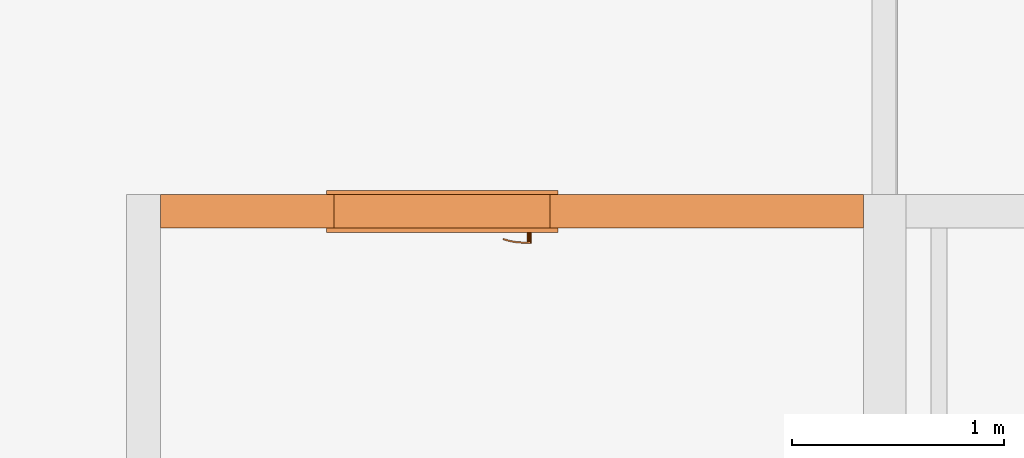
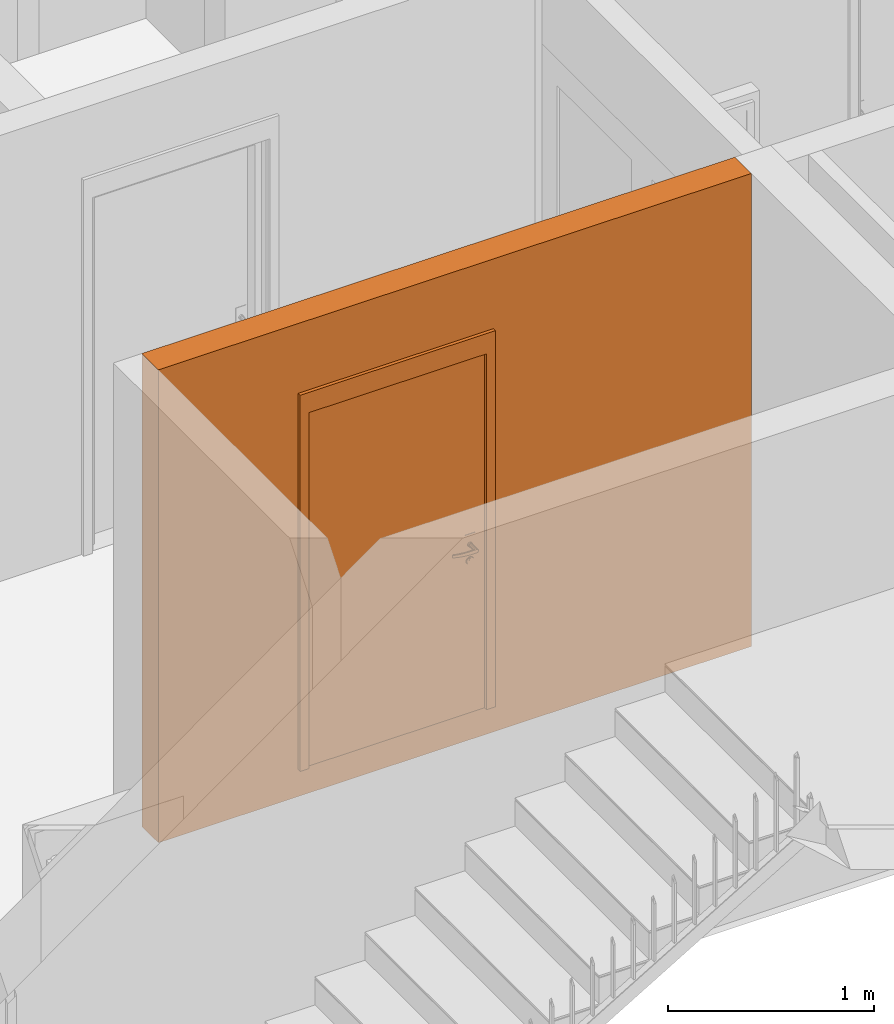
# One storey, part 29 of 67: 2 proxies, 1 opening.
"""IFC2X3 building model written with IfcOpenShell, lengths in millimetres."""

from ifc_helpers import new_model, entity, si_unit, converted_unit, derived_unit, money_unit, direction, frame, origin_with_axes, origin_2d_with_axis, place, context, subcontext, project, spatial, rectangle, extrude, open_shell, faceted_brep, surface_model, source, transform, mapped, material, type_object, element, fill, save


model = new_model("IFC2X3")

# Units and contexts
model_context = context("Model", 3, precision=0.01, world=origin_with_axes(), true_north=direction((0.34421633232, 0.938890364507)))
body_context = subcontext(model_context, "Body", "Model", "MODEL_VIEW")
ifc_project = project(units=[si_unit("LENGTHUNIT", "METRE", prefix="MILLI"), si_unit("AREAUNIT", "SQUARE_METRE"), si_unit("VOLUMEUNIT", "CUBIC_METRE"), converted_unit("PLANEANGLEUNIT", "DEGREE", entity("IfcPlaneAngleMeasure", 0.0174532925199), si_unit("PLANEANGLEUNIT", "RADIAN"), dimensions=[0, 0, 0, 0, 0, 0, 0]), si_unit("SOLIDANGLEUNIT", "STERADIAN"), money_unit("USD"), converted_unit("TIMEUNIT", "Year", entity("IfcTimeMeasure", 31556926.0), si_unit("TIMEUNIT", "SECOND"), dimensions=[0, 0, 1, 0, 0, 0, 0]), si_unit("MASSUNIT", "GRAM", prefix="KILO"), si_unit("THERMODYNAMICTEMPERATUREUNIT", "DEGREE_CELSIUS"), si_unit("LUMINOUSINTENSITYUNIT", "LUMEN"), si_unit("ENERGYUNIT", "JOULE", prefix="MEGA"), derived_unit("THERMALCONDUCTANCEUNIT", [(si_unit("POWERUNIT", "WATT"), 1), (si_unit("LENGTHUNIT", "METRE"), -1), (si_unit("THERMODYNAMICTEMPERATUREUNIT", "KELVIN"), -1)]), derived_unit("SPECIFICHEATCAPACITYUNIT", [(si_unit("ENERGYUNIT", "JOULE"), 1), (si_unit("MASSUNIT", "GRAM", prefix="KILO"), -1), (si_unit("THERMODYNAMICTEMPERATUREUNIT", "KELVIN"), -1)]), derived_unit("MASSDENSITYUNIT", [(si_unit("MASSUNIT", "GRAM", prefix="KILO"), 1), (si_unit("VOLUMEUNIT", "CUBIC_METRE"), -1)])], contexts=[model_context])

# Site, building, storey
site_placement = place(None, origin_with_axes())
site = spatial("IfcSite", under=ifc_project, at=site_placement, Name="USTRONIE MORSKIE", CompositionType="ELEMENT")
building_placement = place(site_placement, origin_with_axes())
building = spatial("IfcBuilding", under=site, at=building_placement, Name="Budynek", CompositionType="ELEMENT")
storey_placement = place(building_placement, frame((0.0, 0.0, 4000.0), z_axis=(0.0, 0.0, 1.0), x_axis=(1.0, 0.0, 0.0)))
storey = spatial("IfcBuildingStorey", under=building, at=storey_placement, Name="PIĘTRO 1", CompositionType="ELEMENT", Elevation=4000.0)

# Proxies, opening
ifc_material = material(Name="Beton konstrukcyjny B25")
building_element_proxy_type_1 = type_object("IfcBuildingElementProxyType", Name="Beton konstrukcyjny B25 160", PredefinedType="NOTDEFINED")
proxy_1_placement = place(storey_placement, frame((396317.920919, 734751.202821, -160.0), z_axis=(0.0, 0.0, 1.0), x_axis=(-1.0, 3.09952838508e-07, 0.0)))
proxy_1 = element("IfcBuildingElementProxy", 1, at=proxy_1_placement, inside=storey, type_object=building_element_proxy_type_1, material=ifc_material, Name="SW-01", context=body_context, shape_type="Brep", body=[
    faceted_brep([(3419.99997519, 80.0, 2800.0), (99.9999751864, 80.0, 2800.0), (100.000024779, -80.0000000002, 2800.0), (3420.00002478, -80.0, 2800.0), (3419.99997519, 80.0, 0.0), (99.9999751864, 80.0, 0.0), (100.000024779, -80.0000000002, 0.0), (3420.00002478, -80.0, 0.0)], [[[0, 1, 2, 3]], [[4, 5, 1, 0]], [[5, 6, 2, 1]], [[3, 2, 6, 7]], [[0, 3, 7, 4]], [[7, 6, 5, 4]]]),
])
opening_placement = place(proxy_1_placement, frame((2090.00061989, 0.0, 160.0), z_axis=(0.0, 0.0, 1.0), x_axis=(1.0, 0.0, 0.0)))
opening = element("IfcOpeningElement", 2, at=opening_placement, cuts=proxy_1, Name="Dw.2", context=body_context, shape_type="SweptSolid", body=[
    extrude(rectangle(XDim=1020.0, YDim=2120.0, at=origin_2d_with_axis()), frame((0.0, -160.0, 1060.0), z_axis=(0.0, 1.0, 0.0), x_axis=(1.0, 0.0, 0.0)), (0.0, 0.0, 1.0), 480.0),
    extrude(rectangle(XDim=1094.0, YDim=2227.0, at=origin_2d_with_axis()), frame((0.0, -80.0000000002, 1113.5), z_axis=(0.0, 1.0, 0.0), x_axis=(1.0, 0.0, 0.0)), (0.0, 0.0, -1.0), 160.0),
    extrude(rectangle(XDim=1094.0, YDim=2227.0, at=origin_2d_with_axis()), frame((0.0, 79.9999999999, 1113.5), z_axis=(0.0, -1.0, 0.0), x_axis=(1.0, 0.0, 0.0)), (0.0, 0.0, -1.0), 160.0),
])
building_element_proxy_type_2 = type_object("IfcBuildingElementProxyType", Name="Drzwi 23", PredefinedType="NOTDEFINED")
shared_shape = source(origin_with_axes(), body_context, "Body", "SurfaceModel", [
    faceted_brep([(-510.0, -115.0, 0.0), (-485.0, -115.0, 0.0), (-485.0, -160.0, 0.0), (-510.0, -160.0, 0.0), (-510.0, -115.0, 2120.0), (-485.0, -115.0, 2095.0), (-485.0, -160.0, 2095.0), (-510.0, -160.0, 2120.0)], [[[0, 1, 2, 3]], [[0, 4, 5, 1]], [[1, 5, 6, 2]], [[3, 2, 6, 7]], [[4, 0, 3, 7]], [[5, 4, 7, 6]]]),
    faceted_brep([(510.0, -115.0, 2120.0), (485.0, -115.0, 2095.0), (485.0, -160.0, 2095.0), (510.0, -160.0, 2120.0), (510.0, -115.0, 0.0), (485.0, -115.0, 0.0), (485.0, -160.0, 0.0), (510.0, -160.0, 0.0)], [[[0, 1, 2, 3]], [[0, 4, 5, 1]], [[1, 5, 6, 2]], [[3, 2, 6, 7]], [[4, 0, 3, 7]], [[5, 4, 7, 6]]]),
    faceted_brep([(-485.0, -115.0, 2095.0), (485.0, -115.0, 2095.0), (485.0, -160.0, 2095.0), (-485.0, -160.0, 2095.0), (-510.0, -115.0, 2120.0), (510.0, -115.0, 2120.0), (510.0, -160.0, 2120.0), (-510.0, -160.0, 2120.0)], [[[0, 1, 2, 3]], [[0, 4, 5, 1]], [[1, 5, 6, 2]], [[3, 2, 6, 7]], [[4, 0, 3, 7]], [[5, 4, 7, 6]]]),
    faceted_brep([(-547.0, -179.0, 0.0), (-547.0, -160.0, 0.0), (-497.0, -160.0, 0.0), (-497.0, -179.0, 0.0), (-547.0, -179.0, 2227.0), (-547.0, -160.0, 2227.0), (-497.0, -160.0, 2107.0), (-497.0, -179.0, 2107.0)], [[[0, 1, 2, 3]], [[4, 5, 1, 0]], [[1, 5, 6, 2]], [[3, 2, 6, 7]], [[0, 3, 7, 4]], [[7, 6, 5, 4]]]),
    faceted_brep([(547.0, -179.0, 2227.0), (547.0, -160.0, 2227.0), (497.0, -160.0, 2107.0), (497.0, -179.0, 2107.0), (547.0, -179.0, 0.0), (547.0, -160.0, 0.0), (497.0, -160.0, 0.0), (497.0, -179.0, 0.0)], [[[0, 1, 2, 3]], [[4, 5, 1, 0]], [[1, 5, 6, 2]], [[3, 2, 6, 7]], [[0, 3, 7, 4]], [[7, 6, 5, 4]]]),
    faceted_brep([(-547.0, -179.0, 2227.0), (-547.0, -160.0, 2227.0), (-497.0, -160.0, 2107.0), (-497.0, -179.0, 2107.0), (547.0, -179.0, 2227.0), (547.0, -160.0, 2227.0), (497.0, -160.0, 2107.0), (497.0, -179.0, 2107.0)], [[[0, 1, 2, 3]], [[4, 5, 1, 0]], [[1, 5, 6, 2]], [[3, 2, 6, 7]], [[0, 3, 7, 4]], [[7, 6, 5, 4]]]),
    faceted_brep([(-547.0, 19.0, 0.0), (-497.0, 19.0, 0.0), (-497.0, 0.0, 0.0), (-547.0, 0.0, 0.0), (-547.0, 19.0, 2227.0), (-497.0, 19.0, 2107.0), (-497.0, 0.0, 2107.0), (-547.0, 0.0, 2227.0)], [[[0, 1, 2, 3]], [[0, 4, 5, 1]], [[1, 5, 6, 2]], [[3, 2, 6, 7]], [[4, 0, 3, 7]], [[5, 4, 7, 6]]]),
    faceted_brep([(547.0, 19.0, 2227.0), (497.0, 19.0, 2107.0), (497.0, 0.0, 2107.0), (547.0, 0.0, 2227.0), (547.0, 19.0, 0.0), (497.0, 19.0, 0.0), (497.0, 0.0, 0.0), (547.0, 0.0, 0.0)], [[[0, 1, 2, 3]], [[0, 4, 5, 1]], [[1, 5, 6, 2]], [[3, 2, 6, 7]], [[4, 0, 3, 7]], [[5, 4, 7, 6]]]),
    faceted_brep([(-547.0, 19.0, 2227.0), (-497.0, 19.0, 2107.0), (-497.0, 0.0, 2107.0), (-547.0, 0.0, 2227.0), (547.0, 19.0, 2227.0), (497.0, 19.0, 2107.0), (497.0, 0.0, 2107.0), (547.0, 0.0, 2227.0)], [[[0, 1, 2, 3]], [[0, 4, 5, 1]], [[1, 5, 6, 2]], [[3, 2, 6, 7]], [[4, 0, 3, 7]], [[5, 4, 7, 6]]]),
    faceted_brep([(-450.0, -40.0, 0.0), (-450.0, -40.0, 2050.0), (-450.0, -115.0, 2050.0), (-450.0, -115.0, 0.0), (-462.0, -40.0, 2050.0), (-462.0, -40.0, 0.0), (-462.0, 0.0, 2050.0), (-510.0, 0.0, 2050.0), (-510.0, -115.0, 2050.0), (-510.0, -115.0, 0.0), (-510.0, 0.0, 0.0), (-462.0, 0.0, 0.0)], [[[0, 1, 2, 3]], [[4, 1, 0, 5]], [[4, 6, 7, 8, 2, 1]], [[3, 2, 8, 9]], [[5, 0, 3, 9, 10, 11]], [[6, 4, 5, 11]], [[6, 11, 10, 7]], [[10, 9, 8, 7]]]),
    faceted_brep([(462.0, -40.0, 2050.0), (450.0, -40.0, 2050.0), (450.0, -115.0, 2050.0), (510.0, -115.0, 2050.0), (510.0, 0.0, 2050.0), (462.0, 0.0, 2050.0), (462.0, -40.0, 0.0), (450.0, -40.0, 0.0), (450.0, -115.0, 0.0), (510.0, -115.0, 0.0), (510.0, 0.0, 0.0), (462.0, 0.0, 0.0)], [[[0, 1, 2, 3, 4, 5]], [[1, 0, 6, 7]], [[1, 7, 8, 2]], [[3, 2, 8, 9]], [[4, 3, 9, 10]], [[11, 5, 4, 10]], [[0, 5, 11, 6]], [[6, 11, 10, 9, 8, 7]]]),
    faceted_brep([(-462.0, 0.0, 2062.0), (-462.0, 0.0, 2050.0), (-510.0, 0.0, 2050.0), (-510.0, 0.0, 2120.0), (510.0, 0.0, 2120.0), (510.0, 0.0, 2050.0), (462.0, 0.0, 2050.0), (462.0, 0.0, 2062.0), (-462.0, -40.0, 2062.0), (-462.0, -40.0, 2050.0), (-450.0, -40.0, 2050.0), (-450.0, -115.0, 2050.0), (-510.0, -115.0, 2050.0), (-510.0, -115.0, 2120.0), (510.0, -115.0, 2120.0), (510.0, -115.0, 2050.0), (462.0, -40.0, 2050.0), (450.0, -115.0, 2050.0), (450.0, -40.0, 2050.0), (462.0, -40.0, 2062.0)], [[[0, 1, 2, 3, 4, 5, 6, 7]], [[1, 0, 8, 9]], [[9, 10, 11, 12, 2, 1]], [[2, 12, 13, 3]], [[3, 13, 14, 4]], [[4, 14, 15, 5]], [[16, 6, 5, 15, 17, 18]], [[7, 6, 16, 19]], [[0, 7, 19, 8]], [[16, 18, 10, 9, 8, 19]], [[10, 18, 17, 11]], [[17, 15, 14, 13, 12, 11]]]),
    faceted_brep([(-440.5, -40.0, 1060.0), (-440.5, -43.0, 1060.0), (-383.5, -43.0, 1060.0), (-383.5, -40.0, 1060.0), (-440.5, -40.0, 870.0), (-440.5, -43.0, 870.0), (-383.5, -43.0, 870.0), (-383.5, -40.0, 870.0)], [[[0, 1, 2, 3]], [[4, 5, 1, 0]], [[1, 5, 6, 2]], [[3, 2, 6, 7]], [[0, 3, 7, 4]], [[7, 6, 5, 4]]]),
    faceted_brep([(-412.0, -104.0, 990.0), (-412.0, -111.0, 990.0), (-417.0, -111.0, 991.339745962), (-417.0, -104.0, 991.339745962), (-387.0, -104.0, 990.0), (-387.0, -111.0, 990.0), (-387.0, -111.0, 1010.0), (-412.0, -111.0, 1010.0), (-417.0, -111.0, 1008.66025404), (-420.660254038, -111.0, 1005.0), (-422.0, -111.0, 1000.0), (-420.660254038, -111.0, 995.0), (-420.660254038, -104.0, 995.0), (-422.0, -104.0, 1000.0), (-420.660254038, -104.0, 1005.0), (-417.0, -104.0, 1008.66025404), (-412.0, -104.0, 1010.0), (-387.0, -104.0, 1010.0)], [[[0, 1, 2, 3]], [[4, 5, 1, 0]], [[1, 5, 6, 7, 8, 9, 10, 11, 2]], [[3, 2, 11, 12]], [[0, 3, 12, 13, 14, 15, 16, 17, 4]], [[17, 6, 5, 4]], [[16, 7, 6, 17]], [[15, 8, 7, 16]], [[14, 9, 8, 15]], [[13, 10, 9, 14]], [[12, 11, 10, 13]]]),
    surface_model("IfcShellBasedSurfaceModel", [(-387.0, -104.0, 1010.0), (-373.596090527, -111.0, 1009.60730092), (-373.901717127, -104.0, 1009.60730092), (-387.0, -111.0, 1010.0), (-346.890283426, -108.663544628, 1008.82190275), (-373.901717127, -104.0, 990.392699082), (-387.0, -104.0, 990.0), (-387.0, -111.0, 990.0), (-373.596090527, -111.0, 990.392699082), (-346.890283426, -108.663544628, 991.178097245), (-347.804837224, -101.716818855, 1008.82190275), (-347.804837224, -101.716818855, 991.178097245), (-320.489735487, -104.008415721, 991.963495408), (-320.489735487, -104.008415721, 1008.03650459), (-322.006256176, -97.1678329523, 1008.03650459), (-322.006256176, -97.1678329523, 991.963495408), (-294.59537082, -97.0700416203, 992.748893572), (-294.59537082, -97.0700416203, 1007.25110643), (-296.702316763, -90.3876628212, 1007.25110643), (-296.702316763, -90.3876628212, 992.748893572), (-286.538795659, -94.1376880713, 993.0), (-286.538795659, -94.1376880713, 1007.0), (-288.829442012, -87.5221707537, 1007.0), (-288.829442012, -87.5221707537, 993.0)], [open_shell([[[0, 1, 2]], [[0, 3, 1]], [[2, 1, 4]], [[0, 2, 5, 6]], [[3, 7, 8, 1]], [[1, 8, 9, 4]], [[2, 4, 10]], [[2, 10, 11, 5]], [[5, 7, 6]], [[5, 8, 7]], [[11, 9, 8]], [[4, 9, 12, 13]], [[10, 4, 13]], [[10, 14, 15, 11]], [[11, 8, 5]], [[15, 9, 11]], [[15, 12, 9]], [[13, 12, 16, 17]], [[10, 13, 14]], [[14, 18, 19, 15]], [[19, 12, 15]], [[19, 16, 12]], [[17, 16, 20, 21]], [[14, 13, 17]], [[14, 17, 18]], [[18, 22, 23, 19]], [[23, 16, 19]], [[23, 20, 16]], [[22, 21, 20, 23]], [[18, 17, 21]], [[18, 21, 22]]])]),
    faceted_brep([(-401.607695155, -53.0, 994.0), (-400.741669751, -43.0, 993.5), (-399.0, -43.0, 1000.0), (-400.0, -53.0, 1000.0), (-406.0, -53.0, 989.607695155), (-405.5, -43.0, 988.741669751), (-412.0, -43.0, 987.0), (-418.5, -43.0, 988.741669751), (-423.258330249, -43.0, 993.5), (-425.0, -43.0, 1000.0), (-423.258330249, -43.0, 1006.5), (-418.5, -43.0, 1011.25833025), (-412.0, -43.0, 1013.0), (-405.5, -43.0, 1011.25833025), (-400.741669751, -43.0, 1006.5), (-401.607695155, -53.0, 1006.0), (-406.0, -53.0, 1010.39230485), (-412.0, -53.0, 1012.0), (-418.0, -53.0, 1010.39230485), (-422.392304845, -53.0, 1006.0), (-424.0, -53.0, 1000.0), (-422.392304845, -53.0, 994.0), (-418.0, -53.0, 989.607695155), (-412.0, -53.0, 988.0)], [[[0, 1, 2, 3]], [[4, 5, 1, 0]], [[2, 1, 5, 6, 7, 8, 9, 10, 11, 12, 13, 14]], [[3, 2, 14, 15]], [[3, 15, 16, 17, 18, 19, 20, 21, 22, 23, 4, 0]], [[23, 6, 5, 4]], [[22, 7, 6, 23]], [[21, 8, 7, 22]], [[20, 9, 8, 21]], [[19, 10, 9, 20]], [[18, 11, 10, 19]], [[17, 12, 11, 18]], [[16, 13, 12, 17]], [[15, 14, 13, 16]]]),
    faceted_brep([(-394.679491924, -47.0, 895.0), (-392.947441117, -43.0, 894.0), (-390.0, -43.0, 905.0), (-392.0, -47.0, 905.0), (-402.0, -47.0, 887.679491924), (-401.0, -43.0, 885.947441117), (-412.0, -43.0, 883.0), (-423.0, -43.0, 885.947441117), (-431.052558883, -43.0, 894.0), (-434.0, -43.0, 905.0), (-431.052558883, -43.0, 916.0), (-423.0, -43.0, 924.052558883), (-412.0, -43.0, 927.0), (-401.0, -43.0, 924.052558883), (-392.947441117, -43.0, 916.0), (-394.679491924, -47.0, 915.0), (-402.0, -47.0, 922.320508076), (-412.0, -47.0, 925.0), (-422.0, -47.0, 922.320508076), (-429.320508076, -47.0, 915.0), (-432.0, -47.0, 905.0), (-429.320508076, -47.0, 895.0), (-422.0, -47.0, 887.679491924), (-412.0, -47.0, 885.0)], [[[0, 1, 2, 3]], [[4, 5, 1, 0]], [[2, 1, 5, 6, 7, 8, 9, 10, 11, 12, 13, 14]], [[3, 2, 14, 15]], [[3, 15, 16, 17, 18, 19, 20, 21, 22, 23, 4, 0]], [[23, 6, 5, 4]], [[22, 7, 6, 23]], [[21, 8, 7, 22]], [[20, 9, 8, 21]], [[19, 10, 9, 20]], [[18, 11, 10, 19]], [[17, 12, 11, 18]], [[16, 13, 12, 17]], [[15, 14, 13, 16]]]),
    faceted_brep([(-407.050252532, -49.0, 909.050252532), (-406.343145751, -47.0, 908.343145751), (-404.0, -47.0, 914.0), (-405.0, -49.0, 914.0), (-412.0, -49.0, 907.0), (-412.0, -47.0, 906.0), (-417.656854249, -47.0, 908.343145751), (-420.0, -47.0, 914.0), (-417.656854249, -47.0, 919.656854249), (-412.0, -47.0, 922.0), (-406.343145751, -47.0, 919.656854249), (-407.050252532, -49.0, 918.949747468), (-412.0, -49.0, 921.0), (-416.949747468, -49.0, 918.949747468), (-419.0, -49.0, 914.0), (-416.949747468, -49.0, 909.050252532)], [[[0, 1, 2, 3]], [[4, 5, 1, 0]], [[2, 1, 5, 6, 7, 8, 9, 10]], [[3, 2, 10, 11]], [[3, 11, 12, 13, 14, 15, 4, 0]], [[15, 6, 5, 4]], [[14, 7, 6, 15]], [[13, 8, 7, 14]], [[12, 9, 8, 13]], [[11, 10, 9, 12]]]),
    faceted_brep([(-412.0, -53.0, 1010.0), (-412.0, -104.0, 1010.0), (-407.0, -104.0, 1008.66025404), (-407.0, -53.0, 1008.66025404), (-417.0, -53.0, 1008.66025404), (-417.0, -104.0, 1008.66025404), (-420.660254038, -104.0, 1005.0), (-422.0, -104.0, 1000.0), (-420.660254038, -104.0, 995.0), (-417.0, -104.0, 991.339745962), (-412.0, -104.0, 990.0), (-407.0, -104.0, 991.339745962), (-403.339745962, -104.0, 995.0), (-402.0, -104.0, 1000.0), (-403.339745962, -104.0, 1005.0), (-403.339745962, -53.0, 1005.0), (-402.0, -53.0, 1000.0), (-403.339745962, -53.0, 995.0), (-407.0, -53.0, 991.339745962), (-412.0, -53.0, 990.0), (-417.0, -53.0, 991.339745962), (-420.660254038, -53.0, 995.0), (-422.0, -53.0, 1000.0), (-420.660254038, -53.0, 1005.0)], [[[0, 1, 2, 3]], [[4, 5, 1, 0]], [[1, 5, 6, 7, 8, 9, 10, 11, 12, 13, 14, 2]], [[3, 2, 14, 15]], [[0, 3, 15, 16, 17, 18, 19, 20, 21, 22, 23, 4]], [[23, 6, 5, 4]], [[22, 7, 6, 23]], [[21, 8, 7, 22]], [[20, 9, 8, 21]], [[19, 10, 9, 20]], [[18, 11, 10, 19]], [[17, 12, 11, 18]], [[16, 13, 12, 17]], [[15, 14, 13, 16]]]),
    faceted_brep([(-440.5, 0.0, 1060.0), (-383.5, 0.0, 1060.0), (-383.5, 3.0, 1060.0), (-440.5, 3.0, 1060.0), (-440.5, 0.0, 870.0), (-383.5, 0.0, 870.0), (-383.5, 3.0, 870.0), (-440.5, 3.0, 870.0)], [[[0, 1, 2, 3]], [[0, 4, 5, 1]], [[1, 5, 6, 2]], [[3, 2, 6, 7]], [[4, 0, 3, 7]], [[5, 4, 7, 6]]]),
    faceted_brep([(-412.0, 64.0, 990.0), (-417.0, 64.0, 991.339745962), (-417.0, 71.0, 991.339745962), (-412.0, 71.0, 990.0), (-387.0, 64.0, 990.0), (-387.0, 64.0, 1010.0), (-412.0, 64.0, 1010.0), (-417.0, 64.0, 1008.66025404), (-420.660254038, 64.0, 1005.0), (-422.0, 64.0, 1000.0), (-420.660254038, 64.0, 995.0), (-420.660254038, 71.0, 995.0), (-422.0, 71.0, 1000.0), (-420.660254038, 71.0, 1005.0), (-417.0, 71.0, 1008.66025404), (-412.0, 71.0, 1010.0), (-387.0, 71.0, 1010.0), (-387.0, 71.0, 990.0)], [[[0, 1, 2, 3]], [[0, 4, 5, 6, 7, 8, 9, 10, 1]], [[1, 10, 11, 2]], [[3, 2, 11, 12, 13, 14, 15, 16, 17]], [[4, 0, 3, 17]], [[5, 4, 17, 16]], [[6, 5, 16, 15]], [[7, 6, 15, 14]], [[8, 7, 14, 13]], [[9, 8, 13, 12]], [[10, 9, 12, 11]]]),
    surface_model("IfcShellBasedSurfaceModel", [(-387.0, 64.0, 1010.0), (-373.901717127, 64.0, 1009.60730092), (-373.596090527, 71.0, 1009.60730092), (-387.0, 64.0, 990.0), (-373.901717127, 64.0, 990.392699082), (-346.890283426, 68.6635446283, 1008.82190275), (-387.0, 71.0, 1010.0), (-387.0, 71.0, 990.0), (-347.804837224, 61.716818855, 991.178097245), (-347.804837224, 61.716818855, 1008.82190275), (-346.890283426, 68.6635446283, 991.178097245), (-373.596090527, 71.0, 990.392699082), (-322.006256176, 57.1678329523, 991.963495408), (-322.006256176, 57.1678329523, 1008.03650459), (-320.489735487, 64.0084157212, 1008.03650459), (-320.489735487, 64.0084157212, 991.963495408), (-296.702316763, 50.3876628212, 992.748893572), (-296.702316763, 50.3876628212, 1007.25110643), (-294.59537082, 57.0700416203, 1007.25110643), (-294.59537082, 57.0700416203, 992.748893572), (-288.829442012, 47.5221707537, 993.0), (-288.829442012, 47.5221707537, 1007.0), (-286.538795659, 54.1376880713, 1007.0), (-286.538795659, 54.1376880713, 993.0)], [open_shell([[[0, 1, 2]], [[0, 3, 4, 1]], [[1, 5, 2]], [[0, 2, 6]], [[4, 3, 7]], [[1, 4, 8, 9]], [[1, 9, 5]], [[2, 5, 10, 11]], [[6, 2, 11, 7]], [[4, 7, 11]], [[8, 4, 11]], [[9, 8, 12, 13]], [[9, 14, 5]], [[5, 14, 15, 10]], [[8, 11, 10]], [[12, 8, 10]], [[13, 12, 16, 17]], [[9, 13, 14]], [[14, 18, 19, 15]], [[12, 10, 15]], [[16, 12, 15]], [[17, 16, 20, 21]], [[13, 17, 18]], [[13, 18, 14]], [[18, 22, 23, 19]], [[16, 15, 19]], [[20, 16, 19]], [[21, 20, 23, 22]], [[17, 21, 22]], [[17, 22, 18]], [[20, 19, 23]]])]),
    faceted_brep([(-401.607695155, 13.0, 994.0), (-400.0, 13.0, 1000.0), (-399.0, 3.0, 1000.0), (-400.741669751, 3.0, 993.5), (-406.0, 13.0, 989.607695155), (-412.0, 13.0, 988.0), (-418.0, 13.0, 989.607695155), (-422.392304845, 13.0, 994.0), (-424.0, 13.0, 1000.0), (-422.392304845, 13.0, 1006.0), (-418.0, 13.0, 1010.39230485), (-412.0, 13.0, 1012.0), (-406.0, 13.0, 1010.39230485), (-401.607695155, 13.0, 1006.0), (-400.741669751, 3.0, 1006.5), (-405.5, 3.0, 1011.25833025), (-412.0, 3.0, 1013.0), (-418.5, 3.0, 1011.25833025), (-423.258330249, 3.0, 1006.5), (-425.0, 3.0, 1000.0), (-423.258330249, 3.0, 993.5), (-418.5, 3.0, 988.741669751), (-412.0, 3.0, 987.0), (-405.5, 3.0, 988.741669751)], [[[0, 1, 2, 3]], [[1, 0, 4, 5, 6, 7, 8, 9, 10, 11, 12, 13]], [[1, 13, 14, 2]], [[2, 14, 15, 16, 17, 18, 19, 20, 21, 22, 23, 3]], [[4, 0, 3, 23]], [[5, 4, 23, 22]], [[6, 5, 22, 21]], [[7, 6, 21, 20]], [[8, 7, 20, 19]], [[9, 8, 19, 18]], [[10, 9, 18, 17]], [[11, 10, 17, 16]], [[12, 11, 16, 15]], [[13, 12, 15, 14]]]),
    faceted_brep([(-394.679491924, 7.0, 895.0), (-392.0, 7.0, 905.0), (-390.0, 3.0, 905.0), (-392.947441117, 3.0, 894.0), (-402.0, 7.0, 887.679491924), (-412.0, 7.0, 885.0), (-422.0, 7.0, 887.679491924), (-429.320508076, 7.0, 895.0), (-432.0, 7.0, 905.0), (-429.320508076, 7.0, 915.0), (-422.0, 7.0, 922.320508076), (-412.0, 7.0, 925.0), (-402.0, 7.0, 922.320508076), (-394.679491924, 7.0, 915.0), (-392.947441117, 3.0, 916.0), (-401.0, 3.0, 924.052558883), (-412.0, 3.0, 927.0), (-423.0, 3.0, 924.052558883), (-431.052558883, 3.0, 916.0), (-434.0, 3.0, 905.0), (-431.052558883, 3.0, 894.0), (-423.0, 3.0, 885.947441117), (-412.0, 3.0, 883.0), (-401.0, 3.0, 885.947441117)], [[[0, 1, 2, 3]], [[1, 0, 4, 5, 6, 7, 8, 9, 10, 11, 12, 13]], [[1, 13, 14, 2]], [[2, 14, 15, 16, 17, 18, 19, 20, 21, 22, 23, 3]], [[4, 0, 3, 23]], [[5, 4, 23, 22]], [[6, 5, 22, 21]], [[7, 6, 21, 20]], [[8, 7, 20, 19]], [[9, 8, 19, 18]], [[10, 9, 18, 17]], [[11, 10, 17, 16]], [[12, 11, 16, 15]], [[13, 12, 15, 14]]]),
    faceted_brep([(-407.050252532, 9.0, 909.050252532), (-405.0, 9.0, 914.0), (-404.0, 7.0, 914.0), (-406.343145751, 7.0, 908.343145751), (-412.0, 9.0, 907.0), (-416.949747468, 9.0, 909.050252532), (-419.0, 9.0, 914.0), (-416.949747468, 9.0, 918.949747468), (-412.0, 9.0, 921.0), (-407.050252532, 9.0, 918.949747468), (-406.343145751, 7.0, 919.656854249), (-412.0, 7.0, 922.0), (-417.656854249, 7.0, 919.656854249), (-420.0, 7.0, 914.0), (-417.656854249, 7.0, 908.343145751), (-412.0, 7.0, 906.0)], [[[0, 1, 2, 3]], [[1, 0, 4, 5, 6, 7, 8, 9]], [[1, 9, 10, 2]], [[2, 10, 11, 12, 13, 14, 15, 3]], [[4, 0, 3, 15]], [[5, 4, 15, 14]], [[6, 5, 14, 13]], [[7, 6, 13, 12]], [[8, 7, 12, 11]], [[9, 8, 11, 10]]]),
    faceted_brep([(-412.0, 13.0, 1010.0), (-407.0, 13.0, 1008.66025404), (-407.0, 64.0, 1008.66025404), (-412.0, 64.0, 1010.0), (-417.0, 13.0, 1008.66025404), (-420.660254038, 13.0, 1005.0), (-422.0, 13.0, 1000.0), (-420.660254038, 13.0, 995.0), (-417.0, 13.0, 991.339745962), (-412.0, 13.0, 990.0), (-407.0, 13.0, 991.339745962), (-403.339745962, 13.0, 995.0), (-402.0, 13.0, 1000.0), (-403.339745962, 13.0, 1005.0), (-403.339745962, 64.0, 1005.0), (-402.0, 64.0, 1000.0), (-403.339745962, 64.0, 995.0), (-407.0, 64.0, 991.339745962), (-412.0, 64.0, 990.0), (-417.0, 64.0, 991.339745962), (-420.660254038, 64.0, 995.0), (-422.0, 64.0, 1000.0), (-420.660254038, 64.0, 1005.0), (-417.0, 64.0, 1008.66025404)], [[[0, 1, 2, 3]], [[0, 4, 5, 6, 7, 8, 9, 10, 11, 12, 13, 1]], [[1, 13, 14, 2]], [[3, 2, 14, 15, 16, 17, 18, 19, 20, 21, 22, 23]], [[4, 0, 3, 23]], [[5, 4, 23, 22]], [[6, 5, 22, 21]], [[7, 6, 21, 20]], [[8, 7, 20, 19]], [[9, 8, 19, 18]], [[10, 9, 18, 17]], [[11, 10, 17, 16]], [[12, 11, 16, 15]], [[13, 12, 15, 14]]]),
    faceted_brep([(462.0, 0.0, 0.0), (462.0, -40.0, 0.0), (-462.0, -40.0, 0.0), (-462.0, 0.0, 0.0), (462.0, 0.0, 2062.0), (462.0, -40.0, 2062.0), (-462.0, -40.0, 2062.0), (-462.0, 0.0, 2062.0)], [[[0, 1, 2, 3]], [[4, 5, 1, 0]], [[1, 5, 6, 2]], [[3, 2, 6, 7]], [[0, 3, 7, 4]], [[7, 6, 5, 4]]]),
])
proxy_2_placement = place(opening_placement, frame((-450.0, 1.13686837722e-10, 0.0), z_axis=(0.0, 0.0, 1.0), x_axis=(1.0, 0.0, 0.0)))
proxy_2 = element("IfcBuildingElementProxy", 3, at=proxy_2_placement, inside=storey, type_object=building_element_proxy_type_2, Name="Dw.2", context=body_context, shape_type="MappedRepresentation", body=[
    mapped(shared_shape, transform((450.0, 79.9999999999, 0.0))),
])
fill(opening, proxy_2)

save(model, "model.ifc")
